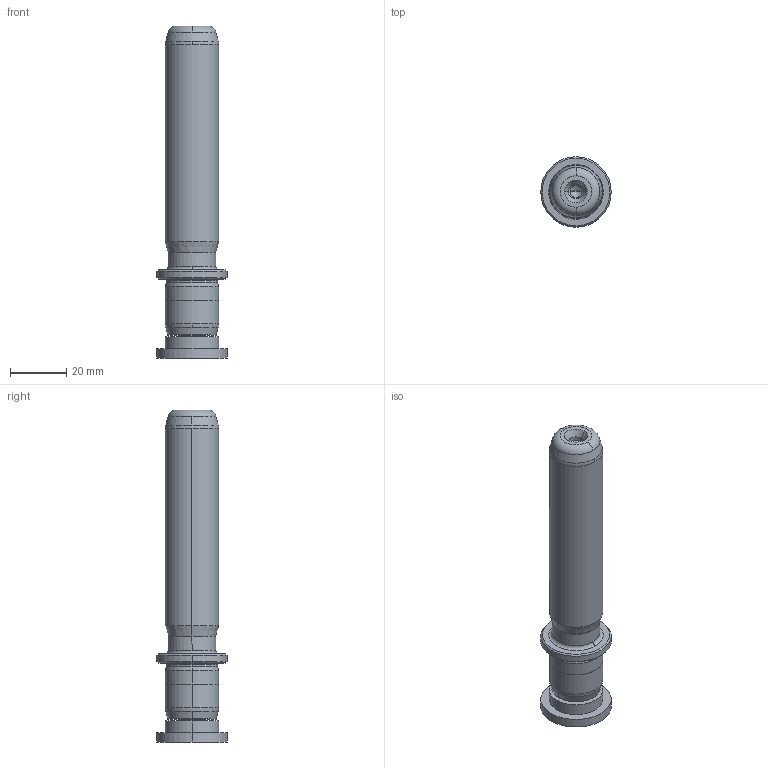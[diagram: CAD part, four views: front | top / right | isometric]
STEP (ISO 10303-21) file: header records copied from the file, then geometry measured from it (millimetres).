
FILE_DESCRIPTION((''),'2;1');
FILE_NAME('P22_019_090.stp','2009-02-02T10:46:56',(''),(''),'Mechanical Desktop 2009','Mechanical Desktop 2009',', , ');
FILE_SCHEMA(('CONFIG_CONTROL_DESIGN'));
Length unit declared in the file: millimetre
Products named in the file (2): Product; blmdl1
Assembly tree (1 placements, depth 2):
  Product
    blmdl1
Bounding box: 25 x 25 x 118 mm (x, y, z)
Volume: 33220 mm3; surface area: 9955.4 mm2
Topology: 3 solids, 3 shells, 99 faces, 237 edges, 149 vertices
Faces by surface type: cylinder 32, cone 28, plane 19, bspline 14, torus 6
Entity records: 3507 total; most frequent: CARTESIAN_POINT 1027, DIRECTION 562, ORIENTED_EDGE 466, AXIS2_PLACEMENT_3D 242, EDGE_CURVE 233, CIRCLE 155, VERTEX_POINT 149, EDGE_LOOP 110
